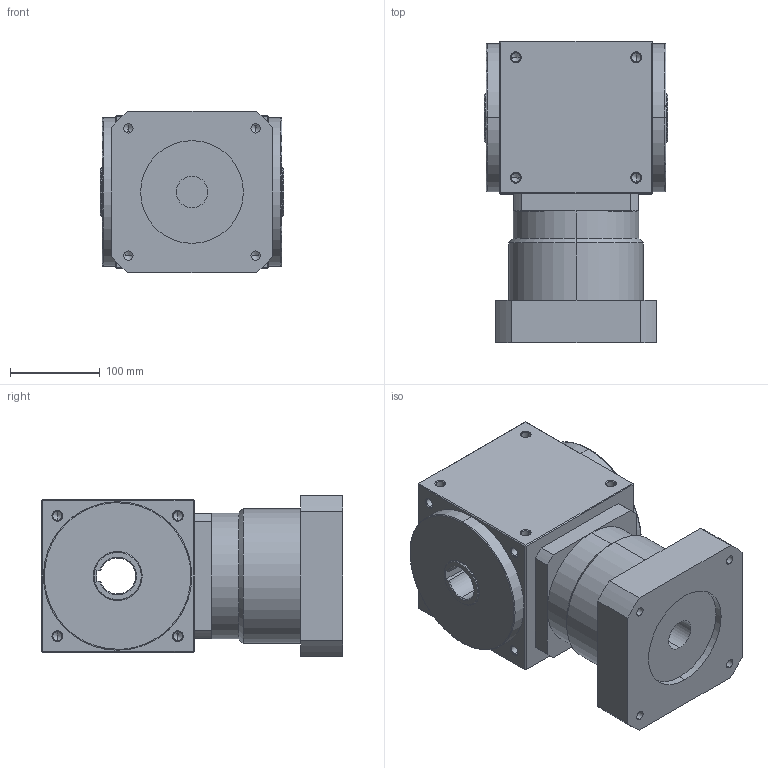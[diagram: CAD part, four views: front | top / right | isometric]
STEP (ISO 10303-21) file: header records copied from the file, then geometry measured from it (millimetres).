
FILE_DESCRIPTION (( 'STEP AP214' ), '1' );
FILE_NAME ('AT170-FH-L1-3KW.STEP', '2020-11-19T06:22:44', ( '微软用户' ), ( '微软中国' ), 'SwSTEP 2.0', 'SolidWorks 2014', '' );
FILE_SCHEMA (( 'AUTOMOTIVE_DESIGN' ));
Length unit declared in the file: millimetre
Products named in the file (2): AT170-FH-L1-3KW
Bounding box: 204 x 335.5 x 180 mm (x, y, z)
Volume: 8638731.9 mm3; surface area: 359984.9 mm2
Topology: 1 solids, 1 shells, 265 faces, 679 edges, 376 vertices
Faces by surface type: cylinder 115, cone 97, plane 49, bspline 4
Entity records: 10593 total; most frequent: CARTESIAN_POINT 1694, ORIENTED_EDGE 1262, DIRECTION 1253, EDGE_CURVE 631, AXIS2_PLACEMENT_3D 479, VERTEX_POINT 376, EDGE_LOOP 299, VECTOR 295
